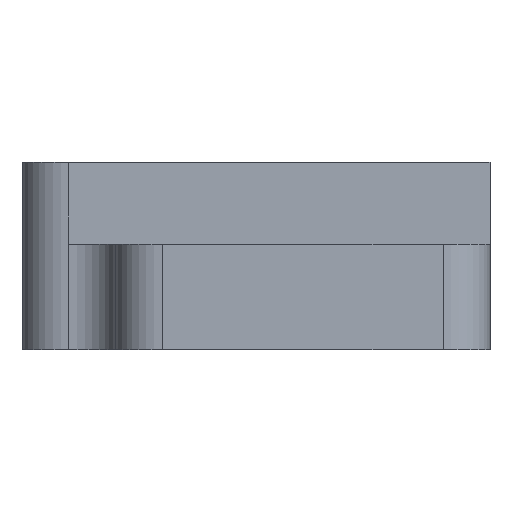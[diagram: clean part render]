
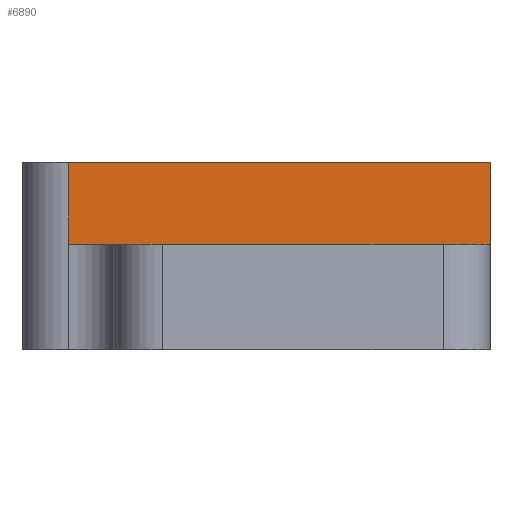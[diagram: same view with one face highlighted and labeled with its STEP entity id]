
A CAD part, front view. The second image highlights one B-rep face of the part: STEP entity #6890.
In plain terms, the highlighted planar face has unit normal (0, -1, 0).
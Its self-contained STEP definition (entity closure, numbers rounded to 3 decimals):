
#87 = VERTEX_POINT ( 'NONE', #6525 ) ;
#122 = ORIENTED_EDGE ( 'NONE', *, *, #6524, .F. ) ;
#227 = FACE_OUTER_BOUND ( 'NONE', #2938, .T. ) ;
#654 = VERTEX_POINT ( 'NONE', #2010 ) ;
#785 = LINE ( 'NONE', #2955, #4783 ) ;
#798 = DIRECTION ( 'NONE',  ( 0., 0., -1. ) ) ;
#1751 = EDGE_CURVE ( 'NONE', #87, #3816, #785, .T. ) ;
#1798 = DIRECTION ( 'NONE',  ( -1., 0., 0. ) ) ;
#2003 = CARTESIAN_POINT ( 'NONE',  ( -65.52, 32.093, 23.759 ) ) ;
#2010 = CARTESIAN_POINT ( 'NONE',  ( -65.52, 32.093, 23.759 ) ) ;
#2465 = DIRECTION ( 'NONE',  ( 0., 0., -1. ) ) ;
#2528 = VECTOR ( 'NONE', #1798, 1000. ) ;
#2938 = EDGE_LOOP ( 'NONE', ( #7289, #5375, #122, #4833 ) ) ;
#2955 = CARTESIAN_POINT ( 'NONE',  ( -63.52, 32.093, 20.259 ) ) ;
#3069 = DIRECTION ( 'NONE',  ( -1., 0., 0. ) ) ;
#3359 = CARTESIAN_POINT ( 'NONE',  ( -47.52, 32.093, 23.759 ) ) ;
#3633 = AXIS2_PLACEMENT_3D ( 'NONE', #4837, #4313, #2465 ) ;
#3781 = LINE ( 'NONE', #2003, #4945 ) ;
#3816 = VERTEX_POINT ( 'NONE', #4767 ) ;
#4313 = DIRECTION ( 'NONE',  ( 0., -1., 0. ) ) ;
#4469 = VECTOR ( 'NONE', #798, 1000. ) ;
#4767 = CARTESIAN_POINT ( 'NONE',  ( -65.52, 32.093, 20.259 ) ) ;
#4768 = CARTESIAN_POINT ( 'NONE',  ( -47.52, 32.093, 23.759 ) ) ;
#4783 = VECTOR ( 'NONE', #3069, 1000. ) ;
#4824 = VERTEX_POINT ( 'NONE', #3359 ) ;
#4833 = ORIENTED_EDGE ( 'NONE', *, *, #5445, .T. ) ;
#4837 = CARTESIAN_POINT ( 'NONE',  ( -47.52, 32.093, 23.759 ) ) ;
#4945 = VECTOR ( 'NONE', #5471, 1000. ) ;
#5255 = LINE ( 'NONE', #5827, #2528 ) ;
#5375 = ORIENTED_EDGE ( 'NONE', *, *, #1751, .F. ) ;
#5398 = PLANE ( 'NONE',  #3633 ) ;
#5445 = EDGE_CURVE ( 'NONE', #4824, #654, #5255, .T. ) ;
#5471 = DIRECTION ( 'NONE',  ( 0., 0., -1. ) ) ;
#5827 = CARTESIAN_POINT ( 'NONE',  ( -47.52, 32.093, 23.759 ) ) ;
#5840 = EDGE_CURVE ( 'NONE', #654, #3816, #3781, .T. ) ;
#5971 = LINE ( 'NONE', #4768, #4469 ) ;
#6524 = EDGE_CURVE ( 'NONE', #4824, #87, #5971, .T. ) ;
#6525 = CARTESIAN_POINT ( 'NONE',  ( -47.52, 32.093, 20.259 ) ) ;
#6890 = ADVANCED_FACE ( 'NONE', ( #227 ), #5398, .T. ) ;
#7289 = ORIENTED_EDGE ( 'NONE', *, *, #5840, .T. ) ;
